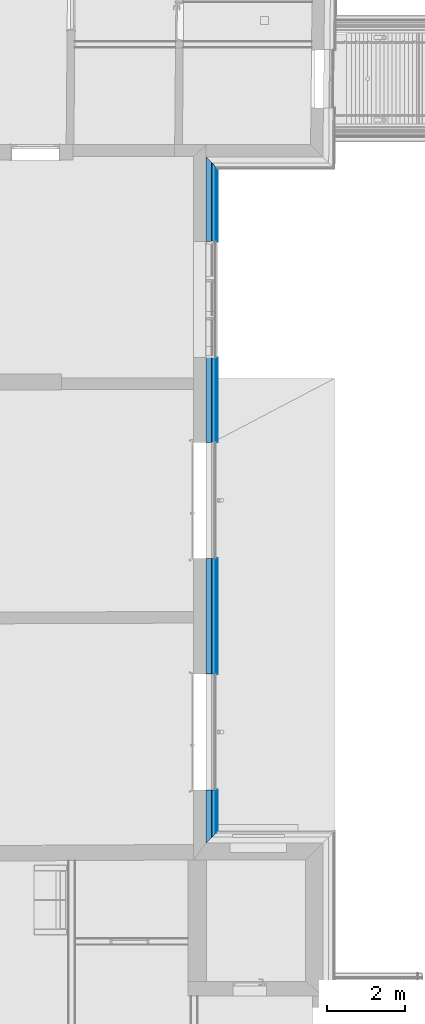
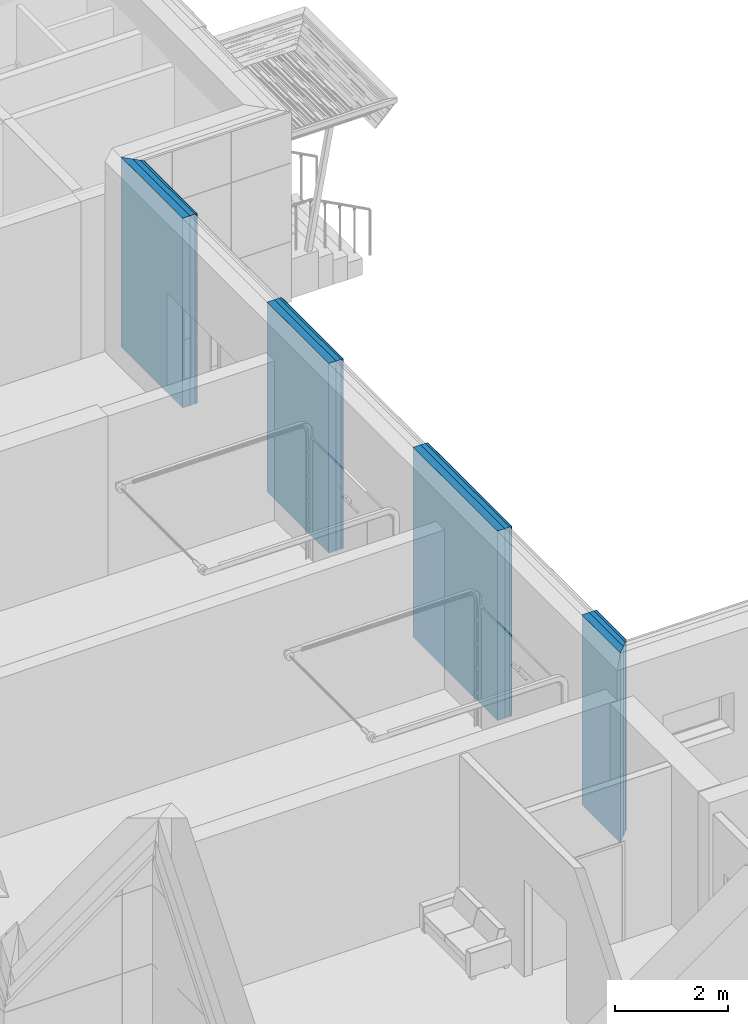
# One storey, part 51 of 418: 4 building element parts, 12 openings, 1 element without a shape of its own.
"""IFC2X3 building model written with IfcOpenShell, lengths in millimetres."""

from ifc_helpers import new_model, entity, si_unit, converted_unit, derived_unit, money_unit, direction, frame, origin_with_axes, origin_2d_with_axis, place, context, subcontext, project, spatial, polyline, rectangle, outline, extrude, material, type_object, element, aggregate, save


model = new_model("IFC2X3")

# Units and contexts
model_context = context("Model", 3, precision=0.01, world=origin_with_axes(), true_north=direction((0.0, 1.0)))
body_context = subcontext(model_context, "Body", "Model", "MODEL_VIEW")
ifc_project = project(units=[si_unit("LENGTHUNIT", "METRE", prefix="MILLI"), si_unit("AREAUNIT", "SQUARE_METRE"), si_unit("VOLUMEUNIT", "CUBIC_METRE"), converted_unit("PLANEANGLEUNIT", "DEGREE", entity("IfcPlaneAngleMeasure", 0.0174532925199), si_unit("PLANEANGLEUNIT", "RADIAN"), dimensions=[0, 0, 0, 0, 0, 0, 0]), si_unit("SOLIDANGLEUNIT", "STERADIAN"), money_unit("EUR"), converted_unit("TIMEUNIT", "Year", entity("IfcTimeMeasure", 31556926.0), si_unit("TIMEUNIT", "SECOND"), dimensions=[0, 0, 1, 0, 0, 0, 0]), si_unit("MASSUNIT", "GRAM", prefix="KILO"), si_unit("THERMODYNAMICTEMPERATUREUNIT", "DEGREE_CELSIUS"), si_unit("LUMINOUSINTENSITYUNIT", "LUMEN"), si_unit("ENERGYUNIT", "JOULE", prefix="MEGA"), derived_unit("THERMALCONDUCTANCEUNIT", [(si_unit("POWERUNIT", "WATT"), 1), (si_unit("LENGTHUNIT", "METRE"), -1), (si_unit("THERMODYNAMICTEMPERATUREUNIT", "KELVIN"), -1)]), derived_unit("SPECIFICHEATCAPACITYUNIT", [(si_unit("ENERGYUNIT", "JOULE"), 1), (si_unit("MASSUNIT", "GRAM", prefix="KILO"), -1), (si_unit("THERMODYNAMICTEMPERATUREUNIT", "KELVIN"), -1)]), derived_unit("MASSDENSITYUNIT", [(si_unit("MASSUNIT", "GRAM", prefix="KILO"), 1), (si_unit("VOLUMEUNIT", "CUBIC_METRE"), -1)])], contexts=[model_context])

# Site, building, storey
site_placement = place(None, origin_with_axes())
site = spatial("IfcSite", under=ifc_project, at=site_placement, Name="Paldiski mnt 245/1, Tallinn, Harjumaa", CompositionType="COMPLEX")
building_placement = place(site_placement, origin_with_axes())
building = spatial("IfcBuilding", under=site, at=building_placement, Name="RKAS Hoone üldnimetus (kasutust iseloomustav) -> IFC Project Manager -> SOLIBRI", CompositionType="ELEMENT")
storey_placement = place(building_placement, origin_with_axes())
storey = spatial("IfcBuildingStorey", under=building, at=storey_placement, Name="Esimene korrus", CompositionType="ELEMENT", Elevation=0.0)

# Wall, openings, building element parts
wall_type = type_object("IfcWallType", Name="VS-03D_uued_kihid 300", PredefinedType="NOTDEFINED")
wall_placement = place(storey_placement, frame((-50070.0, 12189.8287244, 0.0), z_axis=(0.0, 0.0, 1.0), x_axis=(0.0, 1.0, 0.0)))
wall = element("IfcWall", 1, at=wall_placement, inside=storey, type_object=wall_type, Name="VS-03")
opening_1_placement = place(wall_placement, frame((16656.9999149, -3.8369307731e-10, 0.0), z_axis=(0.0, 0.0, 1.0), x_axis=(1.0, 0.0, 0.0)))
element("IfcOpeningElement", 2, at=opening_1_placement, cuts=wall, Name="Cembrit fassaadiplaadi vuuk", context=body_context, shape_type="SweptSolid", body=[
    extrude(outline(polyline([(-3.99999999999, 0.0), (4.00000000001, 0.0), (4.00000000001, 4090.0), (-3.99999999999, 4090.0), (-3.99999999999, 0.0)])), frame((0.0, -292.0, 0.0), z_axis=(0.0, 1.0, 0.0), x_axis=(-1.0, 0.0, 0.0)), (0.0, 0.0, -1.0), 308.0),
])
opening_2_placement = place(wall_placement, frame((11386.9999149, -2.62900812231e-10, 0.0), z_axis=(0.0, 0.0, 1.0), x_axis=(1.0, 0.0, 0.0)))
element("IfcOpeningElement", 3, at=opening_2_placement, cuts=wall, Name="Cembrit fassaadiplaadi vuuk", context=body_context, shape_type="SweptSolid", body=[
    extrude(outline(polyline([(-3.99999999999, 0.0), (4.00000000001, 0.0), (4.00000000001, 4090.0), (-3.99999999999, 4090.0), (-3.99999999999, 0.0)])), frame((0.0, -292.0, 0.0), z_axis=(0.0, 1.0, 0.0), x_axis=(-1.0, 0.0, 0.0)), (0.0, 0.0, -1.0), 308.0),
])
opening_3_placement = place(wall_placement, frame((6426.99979368, -1.4921397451e-10, 0.0), z_axis=(0.0, 0.0, 1.0), x_axis=(1.0, 0.0, 0.0)))
element("IfcOpeningElement", 4, at=opening_3_placement, cuts=wall, Name="Cembrit fassaadiplaadi vuuk", context=body_context, shape_type="SweptSolid", body=[
    extrude(outline(polyline([(-3.99999999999, 0.0), (4.00000000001, 0.0), (4.00000000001, 4090.0), (-3.99999999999, 4090.0), (-3.99999999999, 0.0)])), frame((0.0, -292.0, 0.0), z_axis=(0.0, 1.0, 0.0), x_axis=(-1.0, 0.0, 0.0)), (0.0, 0.0, -1.0), 308.0),
])
opening_4_placement = place(wall_placement, frame((5226.99979368, -1.20792265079e-10, 0.0), z_axis=(0.0, 0.0, 1.0), x_axis=(1.0, 0.0, 0.0)))
element("IfcOpeningElement", 5, at=opening_4_placement, cuts=wall, Name="Cembrit fassaadiplaadi vuuk", context=body_context, shape_type="SweptSolid", body=[
    extrude(outline(polyline([(-3.99999999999, 0.0), (4.00000000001, 0.0), (4.00000000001, 4090.0), (-3.99999999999, 4090.0), (-3.99999999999, 0.0)])), frame((0.0, -292.0, 0.0), z_axis=(0.0, 1.0, 0.0), x_axis=(-1.0, 0.0, 0.0)), (0.0, 0.0, -1.0), 308.0),
])
opening_5_placement = place(wall_placement, frame((8819.0, -2.0605739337e-10, 1298.0), z_axis=(0.0, 0.0, 1.0), x_axis=(1.0, 0.0, 0.0)))
element("IfcOpeningElement", 6, at=opening_5_placement, cuts=wall, Name="Cembrit fassaadiplaadi vuuk", context=body_context, shape_type="SweptSolid", body=[
    extrude(outline(polyline([(-8519.0, 0.0), (8519.0, 0.0), (8519.0, 8.0), (-8519.0, 8.0), (-8519.0, 0.0)])), frame((0.0, -292.0, 0.0), z_axis=(0.0, 1.0, 0.0), x_axis=(-1.0, 0.0, 0.0)), (0.0, 0.0, -1.0), 308.0),
])
opening_6_placement = place(wall_placement, frame((8819.0, -2.0605739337e-10, 2990.0), z_axis=(0.0, 0.0, 1.0), x_axis=(1.0, 0.0, 0.0)))
element("IfcOpeningElement", 7, at=opening_6_placement, cuts=wall, Name="Cembrit fassaadiplaadi vuuk", context=body_context, shape_type="SweptSolid", body=[
    extrude(outline(polyline([(-8519.0, 0.0), (8519.0, 0.0), (8519.0, 8.0), (-8519.0, 8.0), (-8519.0, 0.0)])), frame((0.0, -292.0, 0.0), z_axis=(0.0, 1.0, 0.0), x_axis=(-1.0, 0.0, 0.0)), (0.0, 0.0, -1.0), 308.0),
])
opening_7_placement = place(wall_placement, frame((13966.9999149, -3.19744231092e-10, 0.0), z_axis=(0.0, 0.0, 1.0), x_axis=(1.0, 0.0, 0.0)))
element("IfcOpeningElement", 8, at=opening_7_placement, cuts=wall, Name="Uks", context=body_context, shape_type="SweptSolid", body=[
    extrude(rectangle(XDim=2980.0, YDim=2600.0, at=origin_2d_with_axis()), frame((0.0, -300.0, 1300.0), z_axis=(0.0, -1.0, 0.0), x_axis=(1.0, 0.0, 0.0)), (0.0, 0.0, -1.0), 600.0),
    extrude(rectangle(XDim=2980.0, YDim=2600.0, at=origin_2d_with_axis()), frame((0.0, -300.0, 1300.0), z_axis=(0.0, 1.0, 0.0), x_axis=(1.0, 0.0, 0.0)), (0.0, 0.0, -1.0), 600.0),
])
opening_8_placement = place(wall_placement, frame((8807.00001662, -1.98951966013e-10, 0.0), z_axis=(0.0, 0.0, 1.0), x_axis=(1.0, 0.0, 0.0)))
element("IfcOpeningElement", 9, at=opening_8_placement, cuts=wall, Name="VU-08", context=body_context, shape_type="SweptSolid", body=[
    extrude(rectangle(XDim=2980.0, YDim=2600.0, at=origin_2d_with_axis()), frame((0.0, 320.0, 1300.0), z_axis=(0.0, -1.0, 0.0), x_axis=(1.0, 0.0, 0.0)), (0.0, 0.0, -1.0), 620.0),
    extrude(rectangle(XDim=2980.0, YDim=2600.0, at=origin_2d_with_axis()), frame((0.0, 320.0, 1300.0), z_axis=(0.0, 1.0, 0.0), x_axis=(1.0, 0.0, 0.0)), (0.0, 0.0, -1.0), 620.0),
])
opening_9_placement = place(wall_placement, frame((2849.99799049, 0.0, 0.0), z_axis=(0.0, 0.0, 1.0), x_axis=(1.0, 0.0, 0.0)))
element("IfcOpeningElement", 10, at=opening_9_placement, cuts=wall, Name="VU-08", context=body_context, shape_type="SweptSolid", body=[
    extrude(rectangle(XDim=2980.0, YDim=2600.0, at=origin_2d_with_axis()), frame((0.0, 320.0, 1300.0), z_axis=(0.0, -1.0, 0.0), x_axis=(1.0, 0.0, 0.0)), (0.0, 0.0, -1.0), 620.0),
    extrude(rectangle(XDim=2980.0, YDim=2600.0, at=origin_2d_with_axis()), frame((0.0, 320.0, 1300.0), z_axis=(0.0, 1.0, 0.0), x_axis=(1.0, 0.0, 0.0)), (0.0, 0.0, -1.0), 620.0),
])
opening_10_placement = place(wall_placement, frame((-12189.8287244, -50070.0, 0.0), z_axis=(0.0, 0.0, 1.0), x_axis=(0.0, -1.0, 0.0)))
element("IfcOpeningElement", 11, at=opening_10_placement, cuts=wall, Name="AVA", ObjectType="OPENING", context=body_context, shape_type="SweptSolid", body=[
    extrude(rectangle(XDim=2980.0, YDim=4090.0, at=origin_2d_with_axis()), frame((-50070.0, 15039.8267602, 2045.0), z_axis=(1.0, 0.0, 0.0), x_axis=(0.0, 1.0, 0.0)), (0.0, 0.0, 1.0), 600.000000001),
])
opening_11_placement = place(wall_placement, frame((-12189.8287244, -50070.0, 0.0), z_axis=(0.0, 0.0, 1.0), x_axis=(0.0, -1.0, 0.0)))
element("IfcOpeningElement", 12, at=opening_11_placement, cuts=wall, Name="AVA", ObjectType="OPENING", context=body_context, shape_type="SweptSolid", body=[
    extrude(rectangle(XDim=2980.0, YDim=4090.0, at=origin_2d_with_axis()), frame((-50070.0, 20996.8286392, 2045.0), z_axis=(1.0, 0.0, 0.0), x_axis=(0.0, 1.0, 0.0)), (0.0, 0.0, 1.0), 600.000000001),
])
opening_12_placement = place(wall_placement, frame((-12189.8287244, -50070.0, 0.0), z_axis=(0.0, 0.0, 1.0), x_axis=(0.0, -1.0, 0.0)))
element("IfcOpeningElement", 13, at=opening_12_placement, cuts=wall, Name="AVA", ObjectType="OPENING", context=body_context, shape_type="SweptSolid", body=[
    extrude(rectangle(XDim=2980.0, YDim=4090.0, at=origin_2d_with_axis()), frame((-50070.0, 26156.8286392, 2045.0), z_axis=(1.0, 0.0, 0.0), x_axis=(0.0, 1.0, 0.0)), (0.0, 0.0, 1.0), 600.000000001),
])
ifc_material_1 = material(Name="Cembrit_C020")
building_element_part_1_placement = place(wall_placement, origin_with_axes())
building_element_part_1 = element("IfcBuildingElementPart", 14, at=building_element_part_1_placement, material=ifc_material_1, Name="Cembrit_C020", context=body_context, shape_type="SweptSolid", body=[
    extrude(outline(polyline([(300.0, -300.0), (17330.0, -300.0), (17338.0, -292.0), (292.0, -292.0), (300.0, -300.0)])), origin_with_axes(), (0.0, 0.0, 1.0), 4090.0),
])
ifc_material_2 = material(Name="VKR-06_Õhkvahe")
building_element_part_2_placement = place(wall_placement, origin_with_axes())
building_element_part_2 = element("IfcBuildingElementPart", 15, at=building_element_part_2_placement, material=ifc_material_2, Name="VKR-06_Õhkvahe", context=body_context, shape_type="SweptSolid", body=[
    extrude(outline(polyline([(292.0, -292.0), (17338.0, -292.0), (17380.0, -250.0), (250.0, -250.0), (292.0, -292.0)])), origin_with_axes(), (0.0, 0.0, 1.0), 4090.0),
])
ifc_material_3 = material(Name="Kingspan Kooltherm")
building_element_part_3_placement = place(wall_placement, origin_with_axes())
building_element_part_3 = element("IfcBuildingElementPart", 16, at=building_element_part_3_placement, material=ifc_material_3, Name="Kingspan Kooltherm", context=body_context, shape_type="SweptSolid", body=[
    extrude(outline(polyline([(250.0, -250.0), (17380.0, -250.0), (17480.0, -150.0), (150.0, -150.0), (250.0, -250.0)])), origin_with_axes(), (0.0, 0.0, 1.0), 4090.0),
])
building_element_part_4_placement = place(wall_placement, origin_with_axes())
building_element_part_4 = element("IfcBuildingElementPart", 17, at=building_element_part_4_placement, material=ifc_material_3, Name="Kingspan Kooltherm", context=body_context, shape_type="SweptSolid", body=[
    extrude(outline(polyline([(150.0, -150.0), (17480.0, -150.0), (17630.0, 0.0), (0.0, 0.0), (150.0, -150.0)])), origin_with_axes(), (0.0, 0.0, 1.0), 4090.0),
])
aggregate(wall, [building_element_part_1, building_element_part_2, building_element_part_3, building_element_part_4])

save(model, "model.ifc")
